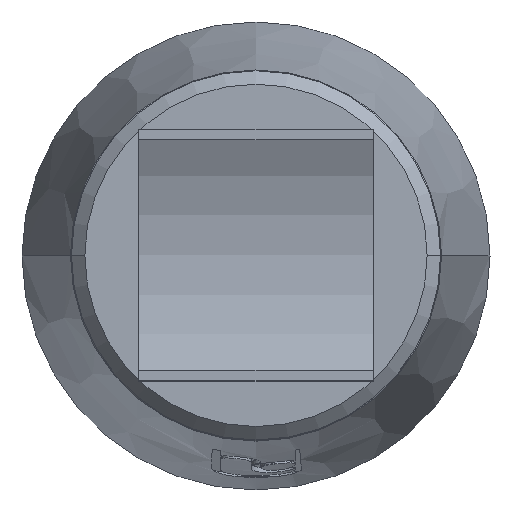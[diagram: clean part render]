
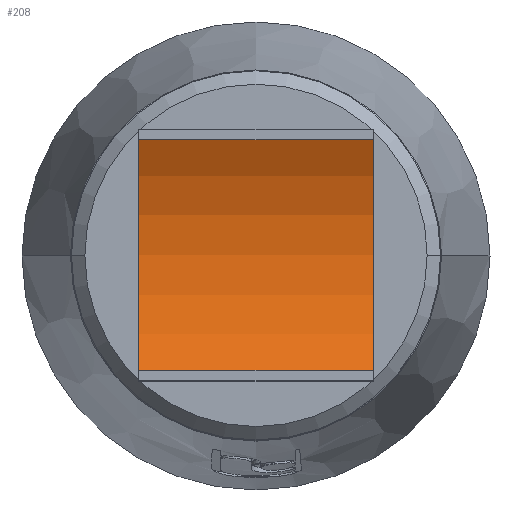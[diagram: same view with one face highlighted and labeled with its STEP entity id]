
A CAD part, top view. The second image highlights one B-rep face of the part: STEP entity #208.
In plain terms, the highlighted cylindrical face has radius 69.85 mm (diameter 139.7 mm), a partial arc.
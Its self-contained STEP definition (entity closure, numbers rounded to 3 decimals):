
#208=ADVANCED_FACE('',(#508),#509,.F.);
#508=FACE_OUTER_BOUND('',#938,.T.);
#509=CYLINDRICAL_SURFACE('',#939,69.85);
#938=EDGE_LOOP('',(#1347,#1348,#1349,#1350));
#939=AXIS2_PLACEMENT_3D('',#1351,#1352,#1353);
#1347=ORIENTED_EDGE('',*,*,#2474,.T.);
#1348=ORIENTED_EDGE('',*,*,#2475,.F.);
#1349=ORIENTED_EDGE('',*,*,#2476,.T.);
#1350=ORIENTED_EDGE('',*,*,#2471,.T.);
#1351=CARTESIAN_POINT('',(415.252,454.3,111.925));
#1352=DIRECTION('',(-1.0,0.,0.));
#1353=DIRECTION('',(0.,-1.0,0.));
#2471=EDGE_CURVE('',#2923,#2921,#2924,.T.);
#2474=EDGE_CURVE('',#2921,#2927,#2928,.T.);
#2475=EDGE_CURVE('',#2929,#2927,#2930,.T.);
#2476=EDGE_CURVE('',#2929,#2923,#2931,.T.);
#2921=VERTEX_POINT('',#3574);
#2923=VERTEX_POINT('',#3577);
#2924=LINE('',#3578,#3579);
#2927=VERTEX_POINT('',#3583);
#2928=CIRCLE('',#3584,69.85);
#2929=VERTEX_POINT('',#3585);
#2930=LINE('',#3586,#3587);
#2931=CIRCLE('',#3588,69.85);
#3574=CARTESIAN_POINT('',(345.252,488.597,51.075));
#3577=CARTESIAN_POINT('',(415.252,488.597,51.075));
#3578=CARTESIAN_POINT('',(415.252,488.597,51.075));
#3579=VECTOR('',#5123,1.0);
#3583=CARTESIAN_POINT('',(345.252,420.003,51.075));
#3584=AXIS2_PLACEMENT_3D('',#5125,#5126,#5127);
#3585=CARTESIAN_POINT('',(415.252,420.003,51.075));
#3586=CARTESIAN_POINT('',(415.252,420.003,51.075));
#3587=VECTOR('',#5128,1.0);
#3588=AXIS2_PLACEMENT_3D('',#5129,#5130,#5131);
#5123=DIRECTION('',(-1.0,0.,0.));
#5125=CARTESIAN_POINT('',(345.252,454.3,111.925));
#5126=DIRECTION('',(-1.0,0.,0.));
#5127=DIRECTION('',(0.,-1.0,0.));
#5128=DIRECTION('',(-1.0,0.,0.));
#5129=CARTESIAN_POINT('',(415.252,454.3,111.925));
#5130=DIRECTION('',(1.0,0.,0.));
#5131=DIRECTION('',(0.,-1.0,0.));
